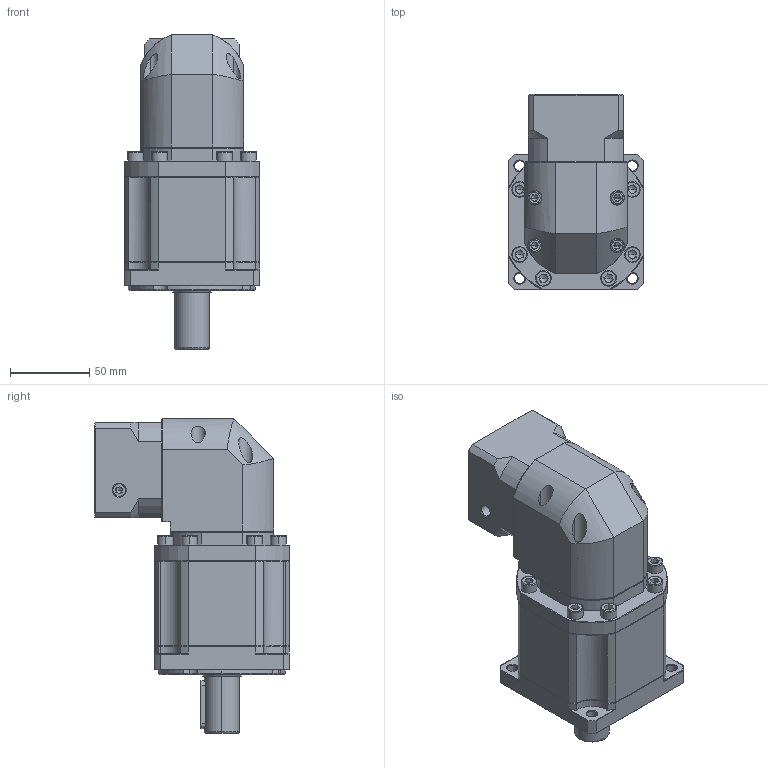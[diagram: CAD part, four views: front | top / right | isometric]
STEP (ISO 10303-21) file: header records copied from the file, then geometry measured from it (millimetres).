
FILE_DESCRIPTION (( 'STEP AP214' ), '1' );
FILE_NAME ('ZBR090-D22-L3-P2-14-50-70-M5.step', '2023-08-19T03:59:48', ( '' ), ( '' ), 'SwSTEP 2.0', 'SolidWorks 2016', '' );
FILE_SCHEMA (( 'AUTOMOTIVE_DESIGN' ));
Length unit declared in the file: millimetre
Products named in the file (1): ZBR090-D22-L3-P2-14-50-70-M5
Bounding box: 85 x 122.7 x 198 mm (x, y, z)
Volume: 922923.1 mm3; surface area: 105603.7 mm2
Topology: 5 solids, 5 shells, 2437 faces, 6454 edges, 4119 vertices
Faces by surface type: plane 1178, cylinder 445, bspline 438, cone 368, torus 8
Entity records: 129935 total; most frequent: CARTESIAN_POINT 46144, ORIENTED_EDGE 12816, DIRECTION 10267, EDGE_CURVE 6408, VERTEX_POINT 4119, LINE 4033, VECTOR 4033, AXIS2_PLACEMENT_3D 3117
